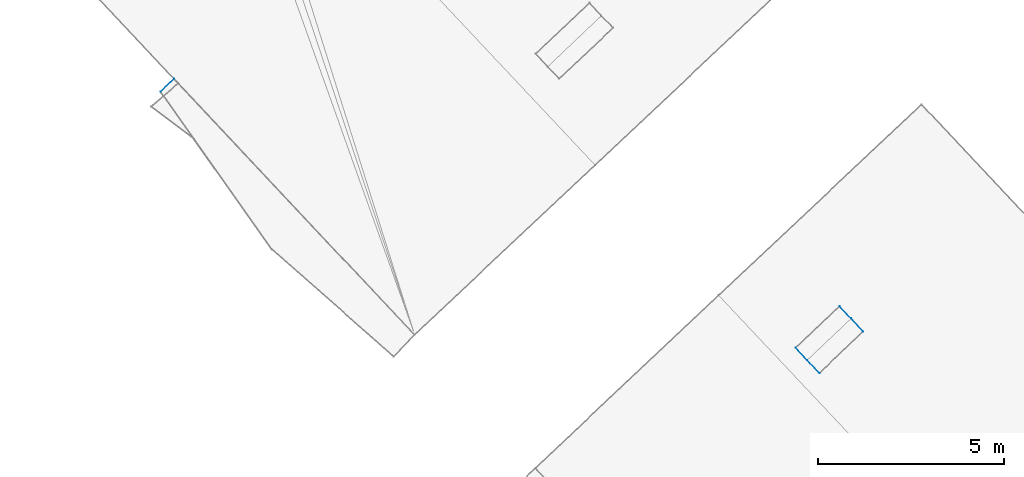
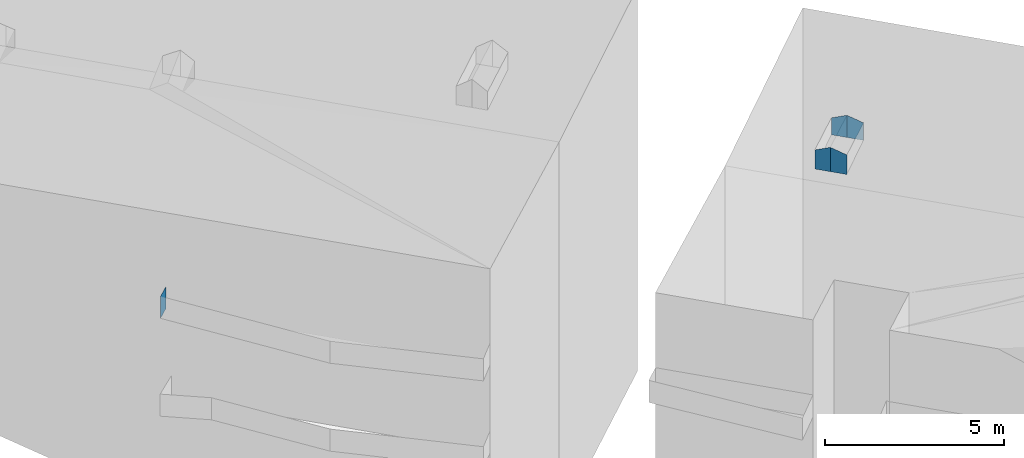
# Not in any storey, part 107 of 136: 6 walls.
"""IFC4 building model written with IfcOpenShell, lengths in metres."""

from ifc_helpers import new_model, entity, si_unit, converted_unit, frame, origin, place, context, subcontext, project, spatial, face_set, surface_model, element, save


model = new_model("IFC4")

# Units and contexts
model_context = context("Model", 3, precision=1e-05, world=origin())
body_context = subcontext(model_context, "Body", "Model", "MODEL_VIEW")
ifc_project = project(units=[converted_unit("PLANEANGLEUNIT", "DEGREE", entity("IfcRatioMeasure", 0.0174532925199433), si_unit("PLANEANGLEUNIT", "RADIAN"), dimensions=[0, 0, 0, 0, 0, 0, 0]), si_unit("AREAUNIT", "SQUARE_METRE"), si_unit("LENGTHUNIT", "METRE")], contexts=[model_context])

# Site, building
site_placement = place(None, origin())
site = spatial("IfcSite", under=ifc_project, at=site_placement, Name="_site")
building_1_placement = place(site_placement, origin())
building_1 = spatial("IfcBuilding", under=site, at=building_1_placement, Name="_building")

# Walls
wall_1_placement = place(building_1_placement, origin())
element("IfcWall", 1, at=wall_1_placement, inside=building_1, Name="Wall", PredefinedType="NOTDEFINED", context=body_context, shape_type="SurfaceModel", body=[
    surface_model("IfcFaceBasedSurfaceModel", [(27.02, 109.14, 51.49), (26.69, 109.49, 51.65), (26.69, 109.49, 50.822), (27.02, 109.14, 50.822)], [face_set([[[0, 1, 2, 3]]])]),
])
wall_2_placement = place(building_1_placement, origin())
element("IfcWall", 2, at=wall_2_placement, inside=building_1, Name="Wall", PredefinedType="NOTDEFINED", context=body_context, shape_type="SurfaceModel", body=[
    surface_model("IfcFaceBasedSurfaceModel", [(27.87, 110.61, 51.65), (28.2, 110.26, 51.49), (28.2, 110.26, 50.893), (27.87, 110.61, 50.893)], [face_set([[[0, 1, 2, 3]]])]),
])
wall_3_placement = place(building_1_placement, origin())
element("IfcWall", 3, at=wall_3_placement, inside=building_1, Name="Wall", PredefinedType="NOTDEFINED", context=body_context, shape_type="SurfaceModel", body=[
    surface_model("IfcFaceBasedSurfaceModel", [(26.69, 109.49, 51.65), (26.38, 109.82, 51.47), (26.38, 109.82, 50.822), (26.69, 109.49, 50.822)], [face_set([[[0, 1, 2, 3]]])]),
])
wall_4_placement = place(building_1_placement, origin())
element("IfcWall", 4, at=wall_4_placement, inside=building_1, Name="Wall", PredefinedType="NOTDEFINED", context=body_context, shape_type="SurfaceModel", body=[
    surface_model("IfcFaceBasedSurfaceModel", [(27.56, 110.94, 51.47), (27.87, 110.61, 51.65), (27.87, 110.61, 50.893), (27.56, 110.94, 50.894)], [face_set([[[0, 1, 2, 3]]])]),
])

# Building
building_2_placement = place(site_placement, origin())
building_2 = spatial("IfcBuilding", under=site, at=building_2_placement, Name="_building")

# Walls
for number, where, name in (
    (5, (0.0, 0.0, 0.0), "Wall"),
    (6, (0.0, 0.0, 0.0), "Wall"),
):
    element("IfcWall", number, at=place(building_2_placement, frame(where)), inside=building_2, Name=name, PredefinedType="NOTDEFINED", context=body_context, shape_type="SurfaceModel", body=[
        surface_model("IfcFaceBasedSurfaceModel", [(9.31, 116.71, 47.54), (9.68, 117.05, 47.54), (9.68, 117.05, 48.29), (9.31, 116.71, 48.29)], [face_set([[[0, 1, 2, 3]]])]),
    ])

save(model, "model.ifc")
